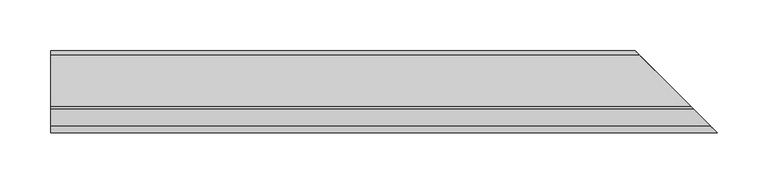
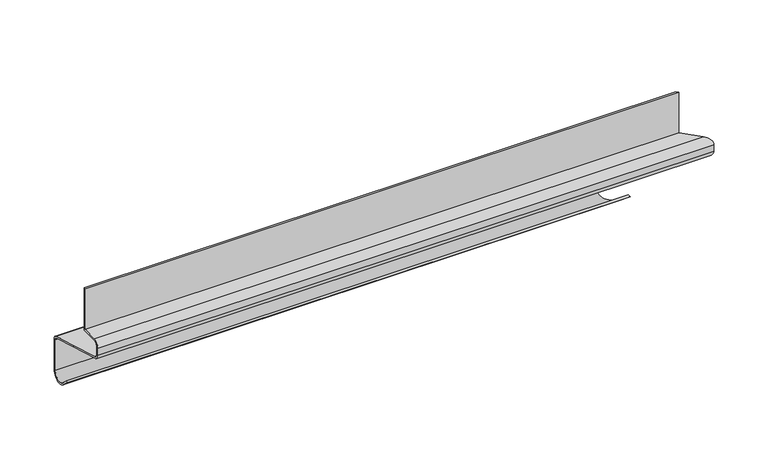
"""IFC4 building model written with IfcOpenShell, lengths in millimetres: proxy geometry, Слив_цоколя : Тип."""

from ifc_helpers import new_model, si_unit, frame, origin, place, context, project, spatial, polyline, circle_curve, ellipse_curve, source, transform, mapped, element, save
from ifc_brep_helpers import plane_surface, cylinder_surface, revolved_surface, advanced_brep


def generic_models_62172133(model_context):
    return source(origin(), model_context, "Body", "AdvancedBrep", [
        advanced_brep(
        [(-180.1244486, 220.7097399, -35.1867822), (-180.1244486, 228.2765966, -42.0595371), (411.8478519, 228.2765966, -42.0595371), (419.4147087, 220.7097399, -35.1867822), (-180.1244486, 245.0, -34.6571153), (395.1244486, 245.0, -34.6571153), (-180.1244486, 245.0, 0.0), (395.1244486, 245.0, 0.0), (-180.1244486, 241.2708281, 4.8358035), (398.8536204, 241.2708281, 4.8358035), (-180.1244486, 210.0, 13.8714094), (-180.1244486, 169.964792, 25.4394549), (470.1596565, 169.964792, 25.4394549), (430.1244486, 210.0, 13.8714094), (-180.1244486, 166.2356202, 30.2752584), (473.8888284, 166.2356202, 30.2752584), (-180.1244486, 166.2356202, 37.8625579), (473.8888284, 166.2356202, 37.8625579), (-180.1244486, 171.2356202, 42.8625579), (468.8888284, 171.2356202, 42.8625579), (-180.1244486, 190.0, 42.8625579), (450.1244486, 190.0, 42.8625579), (-180.1244486, 190.0, 90.6442999), (450.1244486, 190.0, 90.6442999), (-180.1244486, 188.0, 90.6442999), (452.1244486, 188.0, 90.6442999), (-180.1244486, 188.0, 44.8625579), (452.1244486, 188.0, 44.8625579), (-180.1244486, 171.2356202, 44.8625579), (468.8888284, 171.2356202, 44.8625579), (-180.1244486, 164.2356202, 37.8625579), (475.8888284, 164.2356202, 37.8625579), (-180.1244486, 164.2356202, 30.2752584), (475.8888284, 164.2356202, 30.2752584), (-180.1244486, 169.4309974, 23.5118764), (470.6934512, 169.4309974, 23.5118764), (-180.1244486, 210.0, 11.7895927), (-180.1244486, 240.741959, 2.9068018), (399.3824896, 240.741959, 2.9068018), (430.1244486, 210.0, 11.7895927), (-180.1244486, 243.0, 0.0), (397.1244486, 243.0, 0.0), (-180.1244486, 243.0, -34.6571153), (397.1244486, 243.0, -34.6571153), (-180.1244486, 229.6212773, -40.5790527), (410.5031713, 229.6212773, -40.5790527), (-180.1244486, 222.1255864, -33.7709357), (417.9988622, 222.1255864, -33.7709357)],
        [
            (0, 1),
            (1, 2),
            (2, 3),
            (3, 0),
            (1, 4, circle_curve(frame((-180.1244486, 235.0, -34.6571153), z_axis=(1.0, 0.0, 0.0), x_axis=(0.0, 1.0, 0.0)), 10.0)),
            (4, 5),
            (5, 2, ellipse_curve(frame((405.1244486, 235.0, -34.6571153), z_axis=(-0.707106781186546, -0.7071067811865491, 0.0), x_axis=(0.7071067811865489, -0.707106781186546, 0.0)), 14.1421356, 10.0)),
            (4, 6),
            (6, 7),
            (7, 5),
            (6, 8, circle_curve(frame((-180.1244486, 240.0, 0.0), z_axis=(1.0, 0.0, 0.0), x_axis=(0.0, 1.0, 0.0)), 5.0)),
            (8, 9),
            (9, 7, ellipse_curve(frame((400.1244486, 240.0, 0.0), z_axis=(-0.707106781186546, -0.7071067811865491, 0.0), x_axis=(0.7071067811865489, -0.707106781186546, 0.0)), 7.0710678, 5.0)),
            (8, 10),
            (10, 11),
            (11, 12),
            (12, 13),
            (13, 9),
            (11, 14, circle_curve(frame((-180.1244486, 171.2356202, 30.2752584), z_axis=(-1.0, 0.0, 0.0), x_axis=(0.0, 1.0, 0.0)), 5.0)),
            (14, 15),
            (15, 12, ellipse_curve(frame((468.8888284, 171.2356202, 30.2752584), z_axis=(0.7071067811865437, 0.7071067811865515, 0.0), x_axis=(-0.7071067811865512, 0.7071067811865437, 0.0)), 7.0710678, 5.0)),
            (14, 16),
            (16, 17),
            (17, 15),
            (16, 18, circle_curve(frame((-180.1244486, 171.2356202, 37.8625579), z_axis=(-1.0, 0.0, 0.0), x_axis=(0.0, 1.0, 0.0)), 5.0)),
            (18, 19),
            (19, 17, ellipse_curve(frame((468.8888284, 171.2356202, 37.8625579), z_axis=(0.7071067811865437, 0.7071067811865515, 0.0), x_axis=(-0.7071067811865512, 0.7071067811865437, 0.0)), 7.0710678, 5.0)),
            (18, 20),
            (20, 21),
            (21, 19),
            (20, 22),
            (22, 23),
            (23, 21),
            (22, 24),
            (24, 25),
            (25, 23),
            (24, 26),
            (26, 27),
            (27, 25),
            (26, 28),
            (28, 29),
            (29, 27),
            (28, 30, circle_curve(frame((-180.1244486, 171.2356202, 37.8625579), z_axis=(1.0, 0.0, 0.0), x_axis=(0.0, 1.0, 0.0)), 7.0)),
            (30, 31),
            (31, 29, ellipse_curve(frame((468.8888284, 171.2356202, 37.8625579), z_axis=(-0.7071067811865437, -0.7071067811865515, 0.0), x_axis=(0.7071067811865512, -0.7071067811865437, 0.0)), 9.8994949, 7.0)),
            (30, 32),
            (32, 33),
            (33, 31),
            (32, 34, circle_curve(frame((-180.1244486, 171.2356202, 30.2752584), z_axis=(1.0, 0.0, 0.0), x_axis=(0.0, 1.0, 0.0)), 7.0)),
            (34, 35),
            (35, 33, ellipse_curve(frame((468.8888284, 171.2356202, 30.2752584), z_axis=(-0.7071067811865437, -0.7071067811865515, 0.0), x_axis=(0.7071067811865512, -0.7071067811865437, 0.0)), 9.8994949, 7.0)),
            (36, 37),
            (37, 38),
            (38, 39),
            (39, 35),
            (34, 36),
            (37, 40, circle_curve(frame((-180.1244486, 240.0, 0.0), z_axis=(-1.0, 0.0, 0.0), x_axis=(0.0, 1.0, 0.0)), 3.0)),
            (40, 41),
            (41, 38, ellipse_curve(frame((400.1244486, 240.0, 0.0), z_axis=(0.707106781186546, 0.7071067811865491, 0.0), x_axis=(-0.7071067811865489, 0.707106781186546, 0.0)), 4.2426407, 3.0)),
            (40, 42),
            (42, 43),
            (43, 41),
            (42, 44, circle_curve(frame((-180.1244486, 235.0, -34.6571153), z_axis=(-1.0, 0.0, 0.0), x_axis=(0.0, 1.0, 0.0)), 8.0)),
            (44, 45),
            (45, 43, ellipse_curve(frame((405.1244486, 235.0, -34.6571153), z_axis=(0.707106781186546, 0.7071067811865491, 0.0), x_axis=(-0.7071067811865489, 0.707106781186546, 0.0)), 11.3137085, 8.0)),
            (44, 46),
            (46, 47),
            (47, 45),
            (46, 0),
            (3, 47),
            (36, 10),
            (39, 13),
        ],
        [
            plane_surface(frame((930.1244486, 220.7097399, -35.1867822), z_axis=(0.0, -0.6723403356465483, -0.7402421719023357), x_axis=(-1.0, 0.0, 0.0))),
            cylinder_surface(frame((-680.1244486, 235.0, -34.6571153), z_axis=(1.0, 0.0, 0.0), x_axis=(0.0, 1.0, 0.0)), 10.0),
            plane_surface(frame((930.1244486, 245.0, -34.6571153), z_axis=(0.0, 1.0, 0.0), x_axis=(-1.0, 0.0, 0.0))),
            cylinder_surface(frame((-680.1244486, 240.0, 0.0), z_axis=(1.0, 0.0, 0.0), x_axis=(0.0, 1.0, 0.0)), 5.0),
            plane_surface(frame((930.1244486, 241.2708281, 4.8358035), z_axis=(0.0, 0.27759100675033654, 0.9606993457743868), x_axis=(-1.0, 0.0, 0.0))),
            revolved_surface(polyline([(-180.1244486, 176.2356202, 30.2752584), (473.88882839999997, 176.2356202, 30.2752584)]), (-680.1244486, 171.2356202, 30.2752584), (-1.0, 0.0, 0.0)),
            plane_surface(frame((930.1244486, 166.2356202, 30.2752584), z_axis=(0.0, 1.0, 0.0), x_axis=(-1.0, 0.0, 0.0))),
            revolved_surface(polyline([(-180.1244486, 176.2356202, 37.8625579), (473.88882839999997, 176.2356202, 37.8625579)]), (-680.1244486, 171.2356202, 37.8625579), (-1.0, 0.0, 0.0)),
            plane_surface(frame((930.1244486, 171.2356202, 42.8625579), z_axis=(0.0, 0.0, -1.0), x_axis=(-1.0, 0.0, 0.0))),
            plane_surface(frame((930.1244486, 190.0, 42.8625579), z_axis=(0.0, 1.0, 0.0), x_axis=(-1.0, 0.0, 0.0))),
            plane_surface(frame((930.1244486, 190.0, 90.6442999), z_axis=(0.0, 0.0, 1.0), x_axis=(-1.0, 0.0, 0.0))),
            plane_surface(frame((930.1244486, 188.0, 90.6442999), z_axis=(0.0, -1.0, 0.0), x_axis=(-1.0, 0.0, 0.0))),
            plane_surface(frame((930.1244486, 188.0, 44.8625579), z_axis=(0.0, 0.0, 1.0), x_axis=(-1.0, 0.0, 0.0))),
            cylinder_surface(frame((-680.1244486, 171.2356202, 37.8625579), z_axis=(1.0, 0.0, 0.0), x_axis=(0.0, 1.0, 0.0)), 7.0),
            plane_surface(frame((930.1244486, 164.2356202, 37.8625579), z_axis=(0.0, -1.0, 0.0), x_axis=(-1.0, 0.0, 0.0))),
            cylinder_surface(frame((-680.1244486, 171.2356202, 30.2752584), z_axis=(1.0, 0.0, 0.0), x_axis=(0.0, 1.0, 0.0)), 7.0),
            plane_surface(frame((930.1244486, 169.4309974, 23.5118764), z_axis=(0.0, -0.2775910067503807, -0.960699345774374), x_axis=(-1.0, 0.0, 0.0))),
            revolved_surface(polyline([(-180.1244486, 243.0, 0.0), (403.1244486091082, 243.0, 0.0)]), (-680.1244486, 240.0, 0.0), (-1.0, 0.0, 0.0)),
            plane_surface(frame((930.1244486, 243.0, 0.0), z_axis=(0.0, -1.0, 0.0), x_axis=(-1.0, 0.0, 0.0))),
            revolved_surface(polyline([(-180.1244486, 243.0, -34.6571153), (413.12444860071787, 243.0, -34.6571153)]), (-680.1244486, 235.0, -34.6571153), (-1.0, 0.0, 0.0)),
            plane_surface(frame((930.1244486, 229.6212773, -40.5790527), z_axis=(0.0, 0.6723403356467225, 0.7402421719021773), x_axis=(-1.0, 0.0, 0.0))),
            plane_surface(frame((930.1244486, 222.1255864, -33.7709357), z_axis=(0.0, -0.7071067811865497, 0.7071067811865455), x_axis=(-1.0, 0.0, 0.0))),
            plane_surface(frame((-180.1244486, 210.0, 508.0), z_axis=(-1.0, 0.0, 0.0), x_axis=(0.0, 1.0, 0.0))),
            plane_surface(frame((-180.1244486, 210.0, 508.0), z_axis=(-1.0, 0.0, 0.0), x_axis=(0.0, -1.0, 0.0))),
            plane_surface(frame((430.1244486, 210.0, -508.0), z_axis=(0.7071067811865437, 0.7071067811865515, 0.0), x_axis=(0.7071067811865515, -0.7071067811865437, 0.0))),
            plane_surface(frame((430.1244486, 210.0, -508.0), z_axis=(0.707106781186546, 0.7071067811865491, 0.0), x_axis=(-0.7071067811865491, 0.707106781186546, 0.0))),
        ],
        [
            (0, [[1, 2, 3, 4]]),
            (1, [[5, 6, 7, -2]]),
            (2, [[8, 9, 10, -6]]),
            (3, [[11, 12, 13, -9]]),
            (4, [[14, 15, 16, 17, 18, -12]]),
            (5, [[19, 20, 21, -16]]),
            (6, [[22, 23, 24, -20]]),
            (7, [[25, 26, 27, -23]]),
            (8, [[28, 29, 30, -26]]),
            (9, [[31, 32, 33, -29]]),
            (10, [[34, 35, 36, -32]]),
            (11, [[37, 38, 39, -35]]),
            (12, [[40, 41, 42, -38]]),
            (13, [[43, 44, 45, -41]]),
            (14, [[46, 47, 48, -44]]),
            (15, [[49, 50, 51, -47]]),
            (16, [[52, 53, 54, 55, -50, 56]]),
            (17, [[57, 58, 59, -53]]),
            (18, [[60, 61, 62, -58]]),
            (19, [[63, 64, 65, -61]]),
            (20, [[66, 67, 68, -64]]),
            (21, [[69, -4, 70, -67]]),
            (22, [[71, -14, -11, -8, -5, -1, -69, -66, -63, -60, -57, -52]]),
            (23, [[-71, -56, -49, -46, -43, -40, -37, -34, -31, -28, -25, -22, -19, -15]]),
            (24, [[72, -17, -21, -24, -27, -30, -33, -36, -39, -42, -45, -48, -51, -55]]),
            (25, [[-72, -54, -59, -62, -65, -68, -70, -3, -7, -10, -13, -18]]),
        ],
    ),
    ])


if __name__ == "__main__":
    model = new_model("IFC4")
    model_context = context("Model", 3, world=origin())
    ifc_project = project(units=[si_unit("LENGTHUNIT", "METRE", prefix="MILLI")], contexts=[model_context])
    site = spatial("IfcSite", under=ifc_project)
    building = spatial("IfcBuilding", under=site)
    placement = place(None, origin())
    generic_models_shape = generic_models_62172133(model_context)
    element("IfcBuildingElementProxy", 1, Name="Слив_цоколя : Тип", ObjectType="Слив_цоколя : Тип", at=placement, inside=building, context=model_context, shape_type="MappedRepresentation", body=[
        mapped(generic_models_shape, transform((0.0, 0.0, 0.0), x_axis=(1.0, 0.0, 0.0), y_axis=(0.0, 1.0, 0.0), z_axis=(0.0, 0.0, 1.0))),
    ])
    save(model, "model.ifc")
